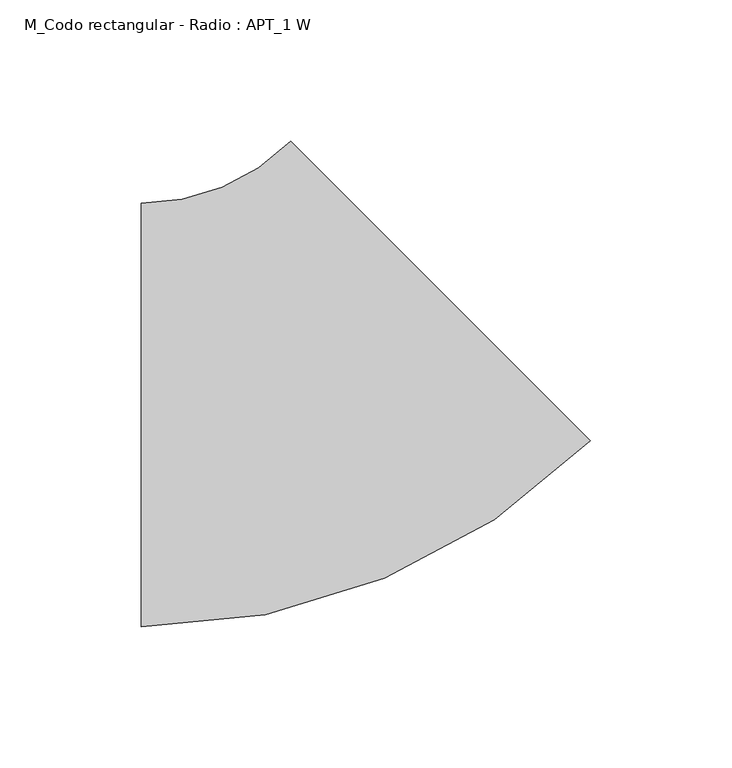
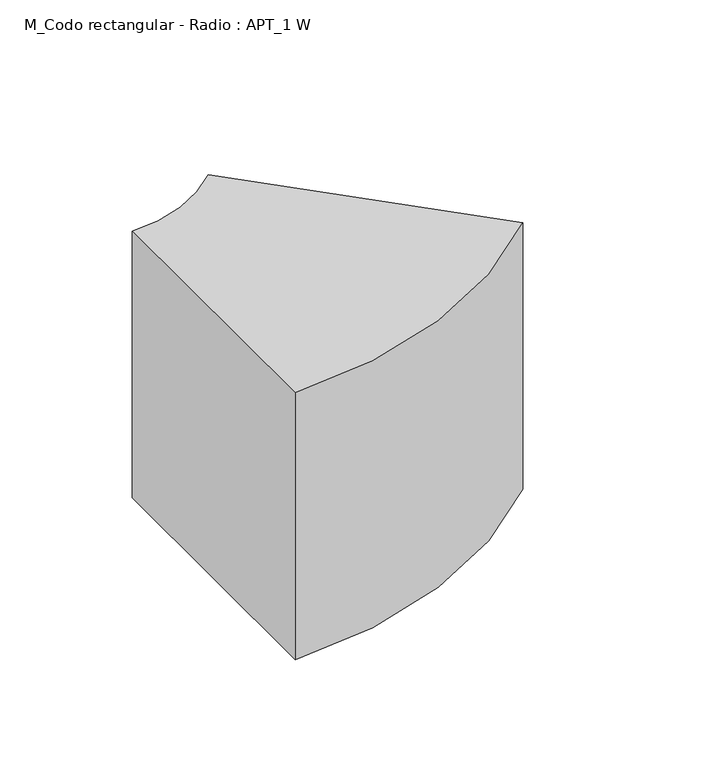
"""IFC4 building model written with IfcOpenShell, lengths in millimetres: duct fitting geometry, M_Codo rectangular - Radio : APT_1 W."""

import ifcopenshell
import ifcopenshell.guid

model = None  # the IFC model being written
_history = None  # IfcOwnerHistory: only IFC2X3 demands one
_inside = {}  # id of a spatial element -> (the spatial element, [elements in it])
_under = {}  # id of a project, library or spatial element -> (it, [spatial elements below it])
_declared = {}  # id of a project -> (the project, [libraries it declares])
_typed = {}  # id of a type object -> (the type object, [elements of that type])
_made_of = {}  # id of a material, layer set ... -> (it, [elements and type objects made of it])


def new_model(schema):
    """Start an empty IFC model of exactly this schema.

    Asked for "IFC4X3", IfcOpenShell would pick the latest addendum, in which some entities
    have other attributes; the version numbers below select the first issue.
    IFC2X3 requires an IfcOwnerHistory on every rooted entity: one is made here for all.
    """
    global model, _history
    if schema == "IFC4X3":
        model = ifcopenshell.file(schema_version=(4, 3, 0, 0))
    else:
        model = ifcopenshell.file(schema=schema)
    _inside.clear()
    _under.clear()
    _declared.clear()
    _typed.clear()
    _made_of.clear()
    _history = None
    if model.schema == "IFC2X3":
        org = make("IfcOrganization", Name="unknown")
        user = make(
            "IfcPersonAndOrganization",
            ThePerson=make("IfcPerson", FamilyName="unknown"),
            TheOrganization=org,
        )
        app = make(
            "IfcApplication",
            ApplicationDeveloper=org,
            Version="unknown",
            ApplicationFullName="unknown",
            ApplicationIdentifier="unknown",
        )
        _history = make(
            "IfcOwnerHistory",
            OwningUser=user,
            OwningApplication=app,
            ChangeAction="ADDED",
            CreationDate=0,
        )
    return model


def make(cls, **values):
    """One entity of the class cls with the attributes given. An attribute that is None is left unset."""
    return model.create_entity(
        cls, **{name: value for name, value in values.items() if value is not None}
    )


def rooted(cls, **values):
    """An entity with a GlobalId (a new one), such as an element, a storey or a relation."""
    return make(cls, GlobalId=ifcopenshell.guid.new(), OwnerHistory=_history, **values)


def si_unit(unit_type, name, prefix=None):
    """IfcSIUnit, for example si_unit("LENGTHUNIT", "METRE", prefix="MILLI")."""
    return make("IfcSIUnit", UnitType=unit_type, Prefix=prefix, Name=name)


def assignment(units):
    """IfcUnitAssignment: the units of a project."""
    return None if units is None else make("IfcUnitAssignment", Units=units)


def point(xyz):
    """IfcCartesianPoint."""
    return None if xyz is None else make("IfcCartesianPoint", Coordinates=xyz)


def direction(xyz):
    """IfcDirection."""
    return None if xyz is None else make("IfcDirection", DirectionRatios=xyz)


def frame(location, z_axis=None, x_axis=None):
    """IfcAxis2Placement3D, a coordinate frame: its origin and axes. An axis left out is left unset."""
    return make(
        "IfcAxis2Placement3D",
        Location=point(location),
        Axis=direction(z_axis),
        RefDirection=direction(x_axis),
    )


def frame_2d(location, x_axis=None):
    """IfcAxis2Placement2D, a coordinate frame in the plane: its origin and x axis."""
    return make(
        "IfcAxis2Placement2D", Location=point(location), RefDirection=direction(x_axis)
    )


def origin():
    """The frame at (0, 0, 0) with its axes left unset."""
    return frame((0.0, 0.0, 0.0))


def place(relative_to, where):
    """IfcLocalPlacement: puts the frame where relative to a parent placement (None: the world)."""
    return make(
        "IfcLocalPlacement", PlacementRelTo=relative_to, RelativePlacement=where
    )


def context(
    kind, dimensions, precision=None, world=None, true_north=None, identifier=None
):
    """IfcGeometricRepresentationContext, for example the 3D "Model" context."""
    return make(
        "IfcGeometricRepresentationContext",
        ContextIdentifier=identifier,
        ContextType=kind,
        CoordinateSpaceDimension=dimensions,
        Precision=precision,
        WorldCoordinateSystem=world,
        TrueNorth=true_north,
    )


def project(units=None, contexts=None):
    """IfcProject with its units and contexts."""
    return rooted(
        "IfcProject",
        Name="project",
        RepresentationContexts=contexts,
        UnitsInContext=assignment(units),
    )


def spatial(cls, under=None, at=None, **own):
    """A site, building, storey or space (cls), placed at a placement, below another one or the project."""
    s = rooted(cls, ObjectPlacement=at, **own)
    if under is not None:
        _under.setdefault(under.id(), (under, []))[1].append(s)
    return s


def polyline(points):
    """IfcPolyline through the points."""
    return make("IfcPolyline", Points=[point(p) for p in points])


def circle_curve(where, radius):
    """IfcCircle in the frame where."""
    return make("IfcCircle", Position=where, Radius=radius)


def trimmed(basis, trim1, trim2, sense, master):
    """IfcTrimmedCurve: the piece of a basis curve between two trims."""
    return make(
        "IfcTrimmedCurve",
        BasisCurve=basis,
        Trim1=trim1,
        Trim2=trim2,
        SenseAgreement=sense,
        MasterRepresentation=master,
    )


def segment(curve, same_sense, transition):
    """IfcCompositeCurveSegment."""
    return make(
        "IfcCompositeCurveSegment",
        Transition=transition,
        SameSense=same_sense,
        ParentCurve=curve,
    )


def composite_curve(segments, self_intersect=None):
    """IfcCompositeCurve: segments joined end to end."""
    return make("IfcCompositeCurve", Segments=segments, SelfIntersect=self_intersect)


def outline(outer, holes=None, kind="AREA"):
    """IfcArbitraryClosedProfileDef: a profile drawn as a closed curve; with holes, ...WithVoids."""
    if holes is None:
        return make("IfcArbitraryClosedProfileDef", ProfileType=kind, OuterCurve=outer)
    return make(
        "IfcArbitraryProfileDefWithVoids",
        ProfileType=kind,
        OuterCurve=outer,
        InnerCurves=holes,
    )


def extrude(swept, where, along, depth):
    """IfcExtrudedAreaSolid: the profile swept, set in the frame where, extruded along a direction by depth."""
    return make(
        "IfcExtrudedAreaSolid",
        SweptArea=swept,
        Position=where,
        ExtrudedDirection=direction(along),
        Depth=depth,
    )


def shape(context_of_items, identifier, shape_type, items):
    """IfcShapeRepresentation: the items that make up one representation, for example the "Body"."""
    return make(
        "IfcShapeRepresentation",
        ContextOfItems=context_of_items,
        RepresentationIdentifier=identifier,
        RepresentationType=shape_type,
        Items=items,
    )


def source(mapping_origin, context_of_items, identifier, shape_type, items):
    """IfcRepresentationMap: a shape defined once, which mapped items show again and again."""
    return make(
        "IfcRepresentationMap",
        MappingOrigin=mapping_origin,
        MappedRepresentation=shape(context_of_items, identifier, shape_type, items),
    )


def transform(
    local_origin,
    x_axis=None,
    y_axis=None,
    z_axis=None,
    scale=None,
    scale2=None,
    scale3=None,
    uniform=True,
):
    """IfcCartesianTransformationOperator3D, or its non-uniform kind. x_axis, y_axis, z_axis: its Axis1, 2, 3."""
    if uniform:
        return make(
            "IfcCartesianTransformationOperator3D",
            Axis1=direction(x_axis),
            Axis2=direction(y_axis),
            LocalOrigin=point(local_origin),
            Scale=scale,
            Axis3=direction(z_axis),
        )
    return make(
        "IfcCartesianTransformationOperator3DnonUniform",
        Axis1=direction(x_axis),
        Axis2=direction(y_axis),
        LocalOrigin=point(local_origin),
        Scale=scale,
        Axis3=direction(z_axis),
        Scale2=scale2,
        Scale3=scale3,
    )


def mapped(mapping_source, mapping_target):
    """IfcMappedItem: shows the shape of a source again, moved by a transform."""
    return make(
        "IfcMappedItem", MappingSource=mapping_source, MappingTarget=mapping_target
    )


def made_of(thing, what):
    """Note that an element or type object is made of a material, layer set ...; save() writes the relation."""
    if what is not None:
        _made_of.setdefault(what.id(), (what, []))[1].append(thing)
    return thing


def element(
    cls,
    number,
    at=None,
    inside=None,
    cuts=None,
    type_object=None,
    material=None,
    context=None,
    identifier="Body",
    shape_type=None,
    held_by="IfcProductDefinitionShape",
    body=None,
    shapes=None,
    **own,
):
    """One element of the class cls, such as IfcWall. Its Tag is "e" and its number.

    at: its placement. inside: the storey or other place that contains it. cuts: it is an
    opening in that element (IfcRelVoidsElement). A single representation is given by context,
    identifier, shape_type and body (its items); several are given by shapes. held_by: the class
    of the entity that holds the representations. save() writes the other relations.
    """
    e = rooted(cls, Tag="e%d" % number, ObjectPlacement=at, **own)
    if body is not None:
        shapes = [shape(context, identifier, shape_type, body)]
    if shapes is not None:
        e.Representation = make(held_by, Representations=shapes)
    if inside is not None:
        _inside.setdefault(inside.id(), (inside, []))[1].append(e)
    if cuts is not None:
        rooted(
            "IfcRelVoidsElement", RelatingBuildingElement=cuts, RelatedOpeningElement=e
        )
    if type_object is not None:
        _typed.setdefault(type_object.id(), (type_object, []))[1].append(e)
    return made_of(e, material)


def aggregate(whole, parts):
    """IfcRelAggregates: a whole, such as a stair, and the parts it consists of."""
    return rooted("IfcRelAggregates", RelatingObject=whole, RelatedObjects=parts)


def save(model, path):
    """Write the relations noted so far, then the file.

    IfcRelAggregates (storeys below a building ...), IfcRelContainedInSpatialStructure (elements
    in a storey), IfcRelDefinesByType, IfcRelAssociatesMaterial and IfcRelDeclares: one each for
    every whole, place, type object, material and project.
    """
    for whole, parts in _under.values():
        aggregate(whole, parts)
    for where, things in _inside.values():
        rooted(
            "IfcRelContainedInSpatialStructure",
            RelatedElements=things,
            RelatingStructure=where,
        )
    for kind, things in _typed.values():
        rooted("IfcRelDefinesByType", RelatedObjects=things, RelatingType=kind)
    for what, things in _made_of.values():
        rooted("IfcRelAssociatesMaterial", RelatedObjects=things, RelatingMaterial=what)
    for by, libraries in _declared.values():
        rooted("IfcRelDeclares", RelatingContext=by, RelatedDefinitions=libraries)
    model.write(path)


def m_codo_rectangular_radio_apt_1_w_e05122fd(model_context):
    return source(origin(), model_context, "Body", "SweptSolid", [
        extrude(outline(composite_curve([segment(trimmed(circle_curve(frame_2d((-62.1320344, 150.0)), 225.0), [point((96.9669914, -9.0990258))], [point((-62.1320344, -75.0))], False, "CARTESIAN"), True, "CONTINUOUS"), segment(polyline([(-62.1320344, -75.0), (-62.1320344, 75.0)]), True, "CONTINUOUS"), segment(trimmed(circle_curve(frame_2d((-62.1320344, 150.0)), 75.0), [point((-62.1320344, 75.0))], [point((-9.0990258, 96.9669914))], True, "CARTESIAN"), True, "CONTINUOUS"), segment(polyline([(-9.0990258, 96.9669914), (96.9669914, -9.0990258)]), True, "CONTINUOUS")], self_intersect=False)), frame((0.0, 0.0, -75.0), z_axis=(0.0, 0.0, 1.0), x_axis=(1.0, 0.0, 0.0)), (0.0, 0.0, 1.0), 150.0),
    ])


if __name__ == "__main__":
    model = new_model("IFC4")
    model_context = context("Model", 3, world=origin())
    ifc_project = project(units=[si_unit("LENGTHUNIT", "METRE", prefix="MILLI")], contexts=[model_context])
    site = spatial("IfcSite", under=ifc_project)
    building = spatial("IfcBuilding", under=site)
    placement = place(None, origin())
    m_codo_rectangular_radio_apt_1_w_shape = m_codo_rectangular_radio_apt_1_w_e05122fd(model_context)
    element("IfcDuctFitting", 1, ObjectType="M_Codo rectangular - Radio : APT_1 W", at=placement, inside=building, context=model_context, shape_type="MappedRepresentation", body=[
        mapped(m_codo_rectangular_radio_apt_1_w_shape, transform((0.0, 0.0, 0.0), x_axis=(1.0, 0.0, 0.0), y_axis=(0.0, 1.0, 0.0), z_axis=(0.0, 0.0, 1.0))),
    ])
    save(model, "model.ifc")
